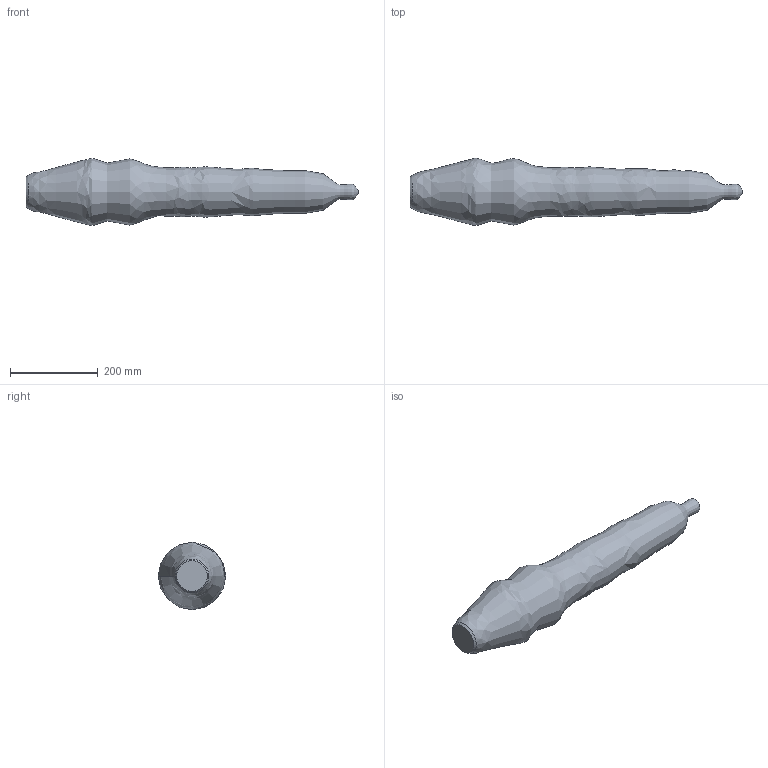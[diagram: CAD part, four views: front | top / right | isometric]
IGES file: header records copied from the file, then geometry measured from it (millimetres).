
Global section: file name: No Iges File Name specified; native system: AutoDesk Inventor R6.1; preprocessor: AutoDesk Inventor Iges Exporter R6.1; author: No Author specified; organization: No Organization specified; date: 20050811.082259; units: millimetre
Bounding box: 755 x 153.08 x 153.09 mm (x, y, z)
Surface area: 264529.2 mm2 (no closed solid volume)
Topology: 0 solids, 0 shells, 4 faces, 9 edges, 6 vertices
Faces by surface type: plane 2, bspline 1, revolution 1
